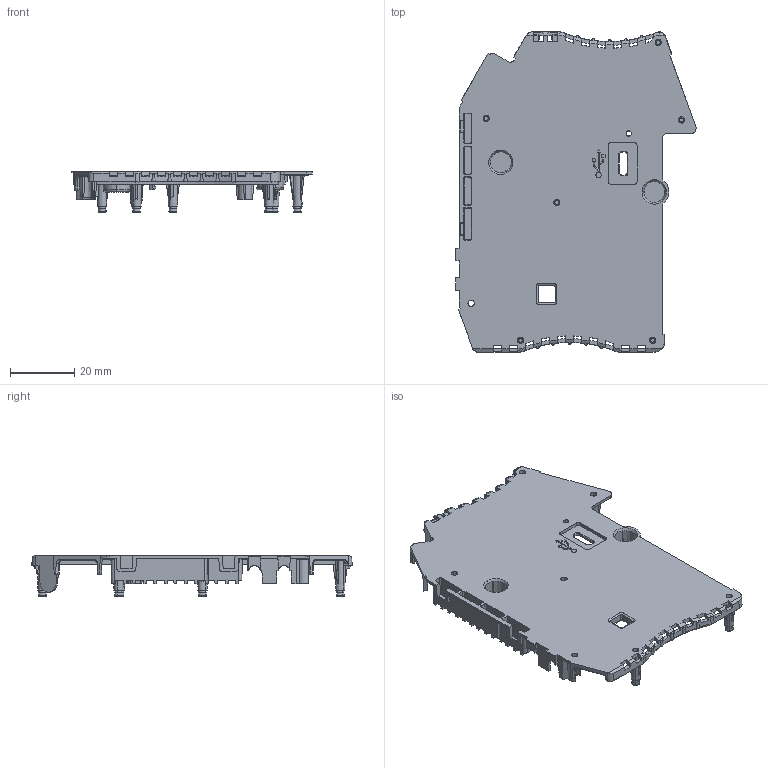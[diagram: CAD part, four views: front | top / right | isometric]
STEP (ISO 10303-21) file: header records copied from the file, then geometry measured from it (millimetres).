
FILE_DESCRIPTION(('Creo Elements/Direct Modeling STEP Export'),'2;1');
FILE_NAME('92.04.00.121.0_with_draft_angle.stp','2018-08-08T16:22:15',(''),(''),'PTC Creo Elements/Direct Modeling STEP processor for AP214 (Solid Model)','PTC Creo Elements/Direct Modeling 19.0E 27-Jun-2016 (C) Parametric Technology GmbH','');
FILE_SCHEMA(('AUTOMOTIVE_DESIGN { 1 0 10303 214 1 1 1 1 }'));
Length unit declared in the file: millimetre
Products named in the file (2): Cover_LP.1; Cover_LP
Assembly tree (1 placements, depth 2):
  Cover_LP
    Cover_LP.1
Bounding box: 75.06 x 100 x 12.8 mm (x, y, z)
Volume: 8685.2 mm3; surface area: 17463.3 mm2
Topology: 1 solids, 1 shells, 1216 faces, 3508 edges, 2329 vertices
Faces by surface type: plane 812, cylinder 165, cone 142, torus 44, bspline 40, sphere 12, extrusion 1
Entity records: 41782 total; most frequent: CARTESIAN_POINT 11189, ORIENTED_EDGE 6992, DIRECTION 5563, EDGE_CURVE 3496, VERTEX_POINT 2329, VECTOR 2243, LINE 2242, AXIS2_PLACEMENT_3D 1660
